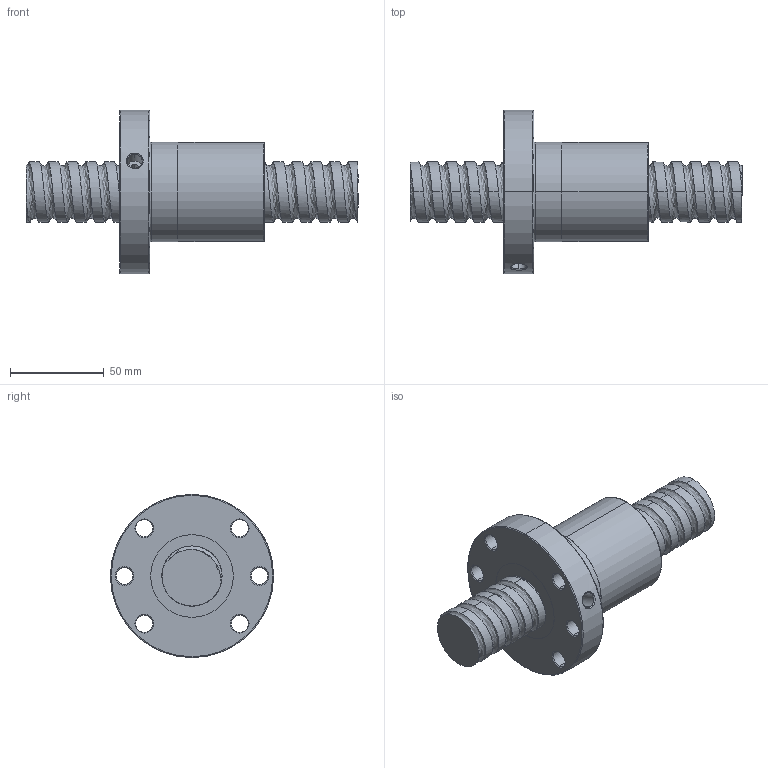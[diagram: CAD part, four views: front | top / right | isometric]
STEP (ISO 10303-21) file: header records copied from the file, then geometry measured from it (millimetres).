
FILE_DESCRIPTION (( 'STEP AP214' ), '1' );
FILE_NAME ('FSDC03210T5-D-A.STEP', '2010-06-25T11:43:23', ( 'XPAUTO' ), ( 'XPAUTO' ), 'SwSTEP 2.0', 'SolidWorks 2007', '' );
FILE_SCHEMA (( 'AUTOMOTIVE_DESIGN' ));
Length unit declared in the file: millimetre
Products named in the file (3): FSDC03210T5-D-A; FSDC03210T5-D-A.sldasm-Part-2_預設; FSDC03210T5-D-A.sldasm-Part-1_預設
Assembly tree (2 placements, depth 2):
  FSDC03210T5-D-A
    FSDC03210T5-D-A.sldasm-Part-1_預設
    FSDC03210T5-D-A.sldasm-Part-2_預設
Bounding box: 177 x 87 x 87 mm (x, y, z)
Volume: 290355.4 mm3; surface area: 57149.6 mm2
Topology: 2 solids, 3 shells, 126 faces, 312 edges, 197 vertices
Faces by surface type: cylinder 74, cone 24, plane 17, torus 6, bspline 5
Entity records: 25854 total; most frequent: CARTESIAN_POINT 22870, ORIENTED_EDGE 624, DIRECTION 582, EDGE_CURVE 312, AXIS2_PLACEMENT_3D 239, VERTEX_POINT 197, EDGE_LOOP 147, FACE_OUTER_BOUND 126
